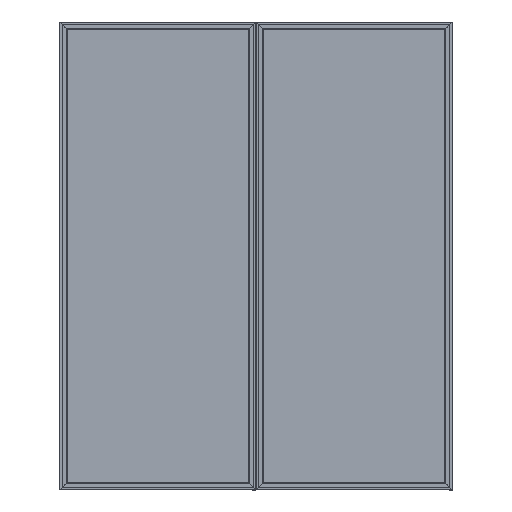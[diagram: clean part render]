
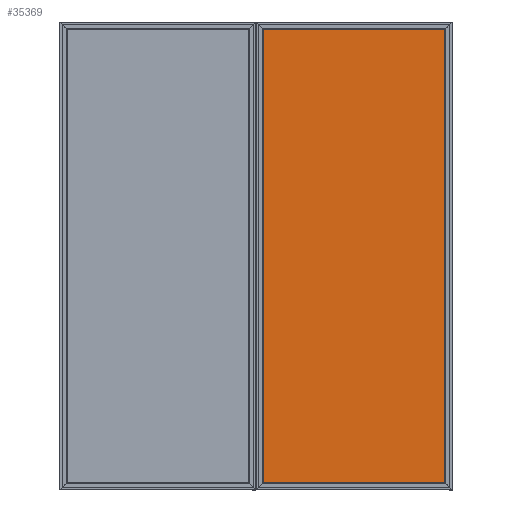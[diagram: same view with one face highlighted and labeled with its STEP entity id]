
A CAD part, top view. The second image highlights one B-rep face of the part: STEP entity #35369.
In plain terms, the highlighted planar face has unit normal (0, 0, 1).
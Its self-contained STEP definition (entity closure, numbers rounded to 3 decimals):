
#1740 = CARTESIAN_POINT ( 'NONE',  ( 465.07, 1162.2, -13.25 ) ) ;
#1844 = CARTESIAN_POINT ( 'NONE',  ( -465.07, -1162.2, -13.25 ) ) ;
#2608 = VECTOR ( 'NONE', #16186, 1000. ) ;
#2740 = VERTEX_POINT ( 'NONE', #45157 ) ;
#3627 = DIRECTION ( 'NONE',  ( -1., 0., 0. ) ) ;
#3730 = VECTOR ( 'NONE', #49330, 1000. ) ;
#4593 = EDGE_CURVE ( 'NONE', #37999, #33642, #48908, .T. ) ;
#9553 = EDGE_CURVE ( 'NONE', #2740, #37999, #42671, .T. ) ;
#9637 = ORIENTED_EDGE ( 'NONE', *, *, #38951, .F. ) ;
#9919 = CARTESIAN_POINT ( 'NONE',  ( 0., 0., -13.25 ) ) ;
#16186 = DIRECTION ( 'NONE',  ( -1., 0., 0. ) ) ;
#18338 = FACE_OUTER_BOUND ( 'NONE', #41830, .T. ) ;
#22319 = CARTESIAN_POINT ( 'NONE',  ( -465.07, 0., -13.25 ) ) ;
#24428 = AXIS2_PLACEMENT_3D ( 'NONE', #9919, #46540, #40855 ) ;
#25261 = ORIENTED_EDGE ( 'NONE', *, *, #4593, .T. ) ;
#25944 = LINE ( 'NONE', #22319, #3730 ) ;
#28611 = DIRECTION ( 'NONE',  ( 0., 1., 0. ) ) ;
#30895 = CARTESIAN_POINT ( 'NONE',  ( 0., 1162.2, -13.25 ) ) ;
#31005 = CARTESIAN_POINT ( 'NONE',  ( -465.07, 1162.2, -13.25 ) ) ;
#31834 = VECTOR ( 'NONE', #3627, 1000. ) ;
#32477 = EDGE_CURVE ( 'NONE', #35524, #33642, #25944, .T. ) ;
#33100 = CARTESIAN_POINT ( 'NONE',  ( 465.07, 0., -13.25 ) ) ;
#33642 = VERTEX_POINT ( 'NONE', #31005 ) ;
#35369 = ADVANCED_FACE ( 'NONE', ( #18338 ), #36657, .F. ) ;
#35524 = VERTEX_POINT ( 'NONE', #1844 ) ;
#36657 = PLANE ( 'NONE',  #24428 ) ;
#37999 = VERTEX_POINT ( 'NONE', #1740 ) ;
#38951 = EDGE_CURVE ( 'NONE', #2740, #35524, #52755, .T. ) ;
#40855 = DIRECTION ( 'NONE',  ( -1., 0., 0. ) ) ;
#41830 = EDGE_LOOP ( 'NONE', ( #54636, #9637, #44876, #25261 ) ) ;
#42671 = LINE ( 'NONE', #33100, #49974 ) ;
#44876 = ORIENTED_EDGE ( 'NONE', *, *, #9553, .T. ) ;
#45157 = CARTESIAN_POINT ( 'NONE',  ( 465.07, -1162.2, -13.25 ) ) ;
#46540 = DIRECTION ( 'NONE',  ( 0., 0., -1. ) ) ;
#48908 = LINE ( 'NONE', #30895, #31834 ) ;
#49330 = DIRECTION ( 'NONE',  ( 0., 1., 0. ) ) ;
#49974 = VECTOR ( 'NONE', #28611, 1000. ) ;
#52755 = LINE ( 'NONE', #57280, #2608 ) ;
#54636 = ORIENTED_EDGE ( 'NONE', *, *, #32477, .F. ) ;
#57280 = CARTESIAN_POINT ( 'NONE',  ( 0., -1162.2, -13.25 ) ) ;
